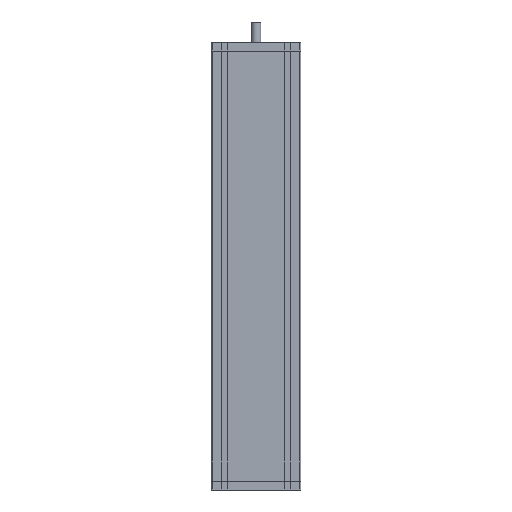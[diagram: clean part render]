
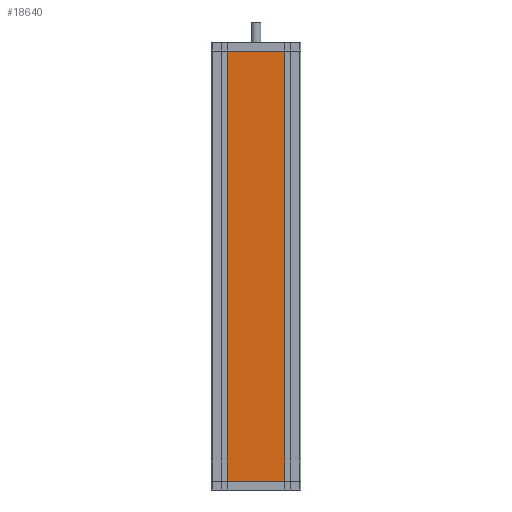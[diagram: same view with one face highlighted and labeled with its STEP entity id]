
A CAD part, front view. The second image highlights one B-rep face of the part: STEP entity #18640.
In plain terms, the highlighted planar face has unit normal (0, -1, 0).
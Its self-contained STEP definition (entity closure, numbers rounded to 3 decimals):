
#91 = PLANE ( 'NONE',  #15455 ) ;
#340 = ORIENTED_EDGE ( 'NONE', *, *, #3171, .T. ) ;
#722 = CARTESIAN_POINT ( 'NONE',  ( 64., 0., 480. ) ) ;
#1271 = VERTEX_POINT ( 'NONE', #14453 ) ;
#3018 = DIRECTION ( 'NONE',  ( 1., 0., 0. ) ) ;
#3171 = EDGE_CURVE ( 'NONE', #1271, #6689, #8113, .T. ) ;
#3223 = VECTOR ( 'NONE', #3018, 1000. ) ;
#3417 = EDGE_CURVE ( 'NONE', #1271, #4226, #7379, .T. ) ;
#3615 = LINE ( 'NONE', #6543, #3722 ) ;
#3722 = VECTOR ( 'NONE', #18900, 1000. ) ;
#4226 = VERTEX_POINT ( 'NONE', #722 ) ;
#4732 = FACE_OUTER_BOUND ( 'NONE', #16892, .T. ) ;
#4837 = CARTESIAN_POINT ( 'NONE',  ( -64., 0., -480. ) ) ;
#5479 = DIRECTION ( 'NONE',  ( 1., 0., 0. ) ) ;
#6063 = LINE ( 'NONE', #4837, #3223 ) ;
#6248 = DIRECTION ( 'NONE',  ( 0., 1., 0. ) ) ;
#6527 = ORIENTED_EDGE ( 'NONE', *, *, #3417, .F. ) ;
#6543 = CARTESIAN_POINT ( 'NONE',  ( 64., 0., 480. ) ) ;
#6612 = EDGE_CURVE ( 'NONE', #4226, #7210, #3615, .T. ) ;
#6689 = VERTEX_POINT ( 'NONE', #15689 ) ;
#7210 = VERTEX_POINT ( 'NONE', #14585 ) ;
#7379 = LINE ( 'NONE', #8881, #8231 ) ;
#7662 = DIRECTION ( 'NONE',  ( 0., 0., 1. ) ) ;
#8113 = LINE ( 'NONE', #15551, #10492 ) ;
#8231 = VECTOR ( 'NONE', #5479, 1000. ) ;
#8881 = CARTESIAN_POINT ( 'NONE',  ( -64., 0., 480. ) ) ;
#9162 = CARTESIAN_POINT ( 'NONE',  ( -64., 0., 480. ) ) ;
#10492 = VECTOR ( 'NONE', #18572, 1000. ) ;
#12730 = ORIENTED_EDGE ( 'NONE', *, *, #6612, .F. ) ;
#14453 = CARTESIAN_POINT ( 'NONE',  ( -64., 0., 480. ) ) ;
#14585 = CARTESIAN_POINT ( 'NONE',  ( 64., 0., -480. ) ) ;
#15455 = AXIS2_PLACEMENT_3D ( 'NONE', #9162, #6248, #7662 ) ;
#15551 = CARTESIAN_POINT ( 'NONE',  ( -64., 0., 480. ) ) ;
#15689 = CARTESIAN_POINT ( 'NONE',  ( -64., 0., -480. ) ) ;
#16577 = EDGE_CURVE ( 'NONE', #6689, #7210, #6063, .T. ) ;
#16892 = EDGE_LOOP ( 'NONE', ( #17894, #12730, #6527, #340 ) ) ;
#17894 = ORIENTED_EDGE ( 'NONE', *, *, #16577, .T. ) ;
#18572 = DIRECTION ( 'NONE',  ( 0., 0., -1. ) ) ;
#18640 = ADVANCED_FACE ( 'NONE', ( #4732 ), #91, .F. ) ;
#18900 = DIRECTION ( 'NONE',  ( 0., 0., -1. ) ) ;
